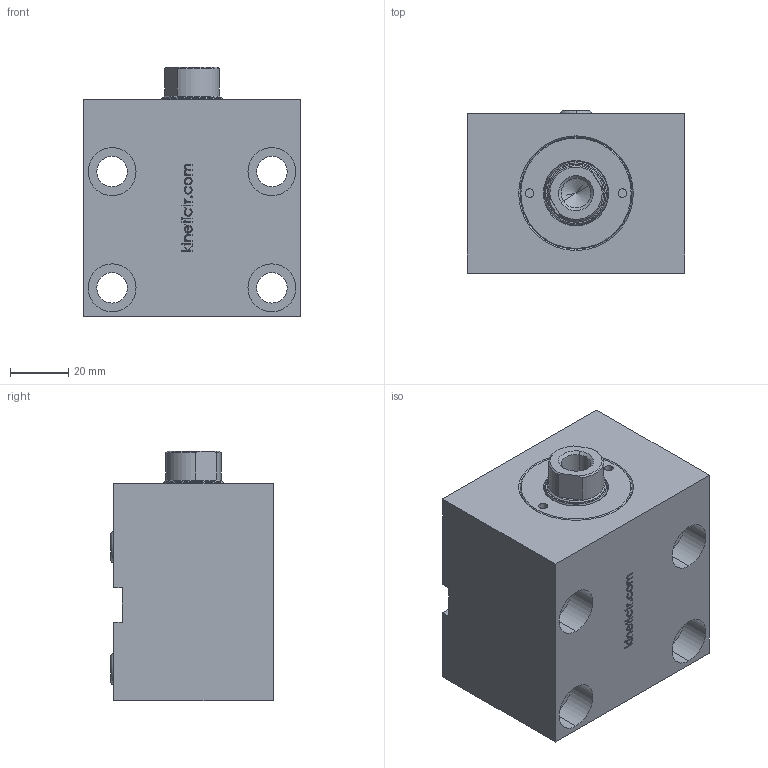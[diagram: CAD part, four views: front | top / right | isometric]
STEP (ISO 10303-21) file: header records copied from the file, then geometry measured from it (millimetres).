
FILE_DESCRIPTION (( 'STEP AP214' ), '1' );
FILE_NAME ('KBZ_11_32_20_25_W.STEP', '2019-09-15T14:56:15', ( '' ), ( '' ), 'SwSTEP 2.0', 'SolidWorks 2018', '' );
FILE_SCHEMA (( 'AUTOMOTIVE_DESIGN' ));
Length unit declared in the file: millimetre
Products named in the file (6): kbz_11_32_20_govde_W; KO-6X2_5; KBZ_11_32_20_25_W; K06-20X25X4_3X6; KBZ_11_20_MIL_W; KBZ_11_32_ON_kapak_W
Assembly tree (6 placements, depth 2):
  KBZ_11_32_20_25_W
    kbz_11_32_20_govde_W
    KBZ_11_20_MIL_W
    KBZ_11_32_ON_kapak_W
    K06-20X25X4_3X6
    KO-6X2_5  x2
Bounding box: 75 x 56 x 86 mm (x, y, z)
Volume: 275704.8 mm3; surface area: 50615.8 mm2
Topology: 6 solids, 6 shells, 325 faces, 785 edges, 504 vertices
Faces by surface type: plane 137, bspline 77, cylinder 62, cone 49
Entity records: 12988 total; most frequent: CARTESIAN_POINT 5553, ORIENTED_EDGE 1550, DIRECTION 1308, EDGE_CURVE 775, VERTEX_POINT 500, VECTOR 438, LINE 438, AXIS2_PLACEMENT_3D 435
